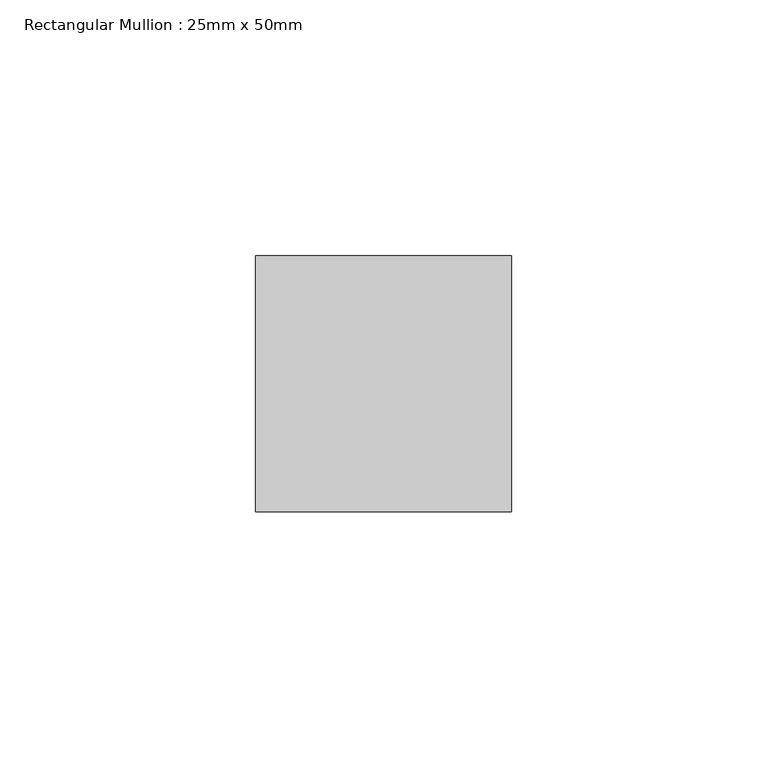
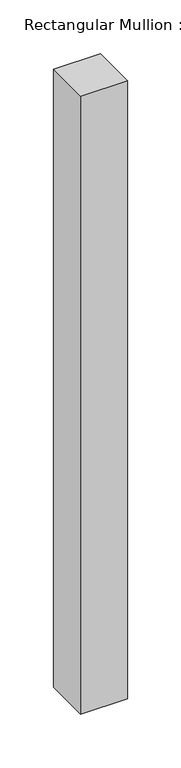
"""IFC4 building model written with IfcOpenShell, lengths in millimetres: member geometry, Rectangular Mullion : 25mm x 50mm."""

from ifc_helpers import new_model, si_unit, frame, origin, place, context, project, spatial, polyline, outline, extrude, source, transform, mapped, element, save


def rectangular_mullion_25mm_x_50mm_b2f8d3bc(model_context):
    return source(origin(), model_context, "Body", "SweptSolid", [
        extrude(outline(polyline([(25.0, 25.0), (25.0, -25.0), (-25.0, -25.0), (-25.0, 25.0), (25.0, 25.0)])), frame((0.0, 0.0, -700.0), z_axis=(0.0, 0.0, 1.0), x_axis=(1.0, 0.0, 0.0)), (0.0, 0.0, 1.0), 700.0),
    ])


if __name__ == "__main__":
    model = new_model("IFC4")
    model_context = context("Model", 3, world=origin())
    ifc_project = project(units=[si_unit("LENGTHUNIT", "METRE", prefix="MILLI")], contexts=[model_context])
    site = spatial("IfcSite", under=ifc_project)
    building = spatial("IfcBuilding", under=site)
    placement = place(None, origin())
    rectangular_mullion_25mm_x_50mm_shape = rectangular_mullion_25mm_x_50mm_b2f8d3bc(model_context)
    element("IfcMember", 1, ObjectType="Rectangular Mullion : 25mm x 50mm", at=placement, inside=building, context=model_context, shape_type="MappedRepresentation", body=[
        mapped(rectangular_mullion_25mm_x_50mm_shape, transform((0.0, 0.0, 0.0), x_axis=(1.0, 0.0, 0.0), y_axis=(0.0, 1.0, 0.0), z_axis=(0.0, 0.0, 1.0))),
    ])
    save(model, "model.ifc")
